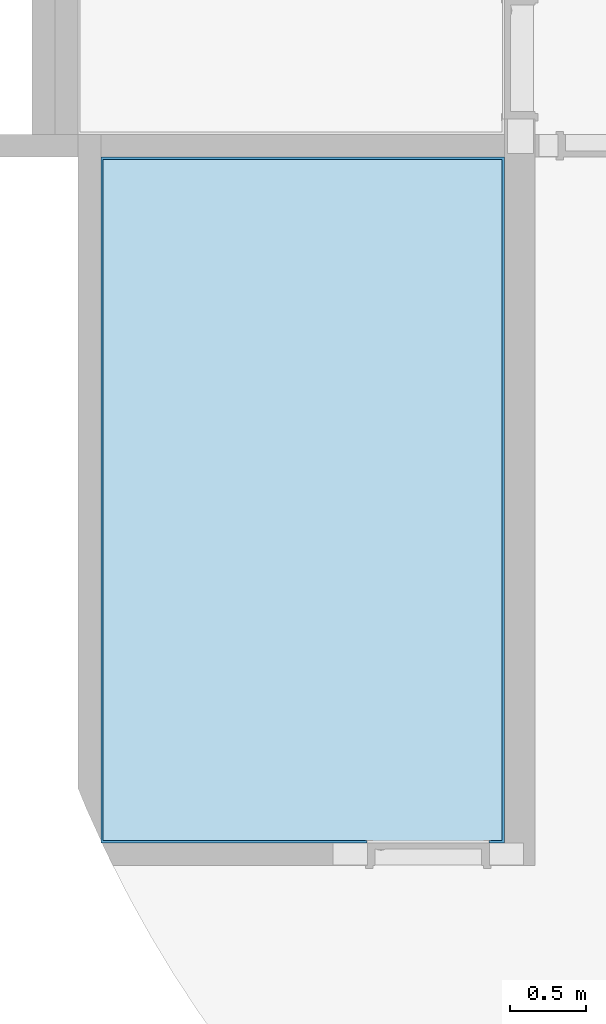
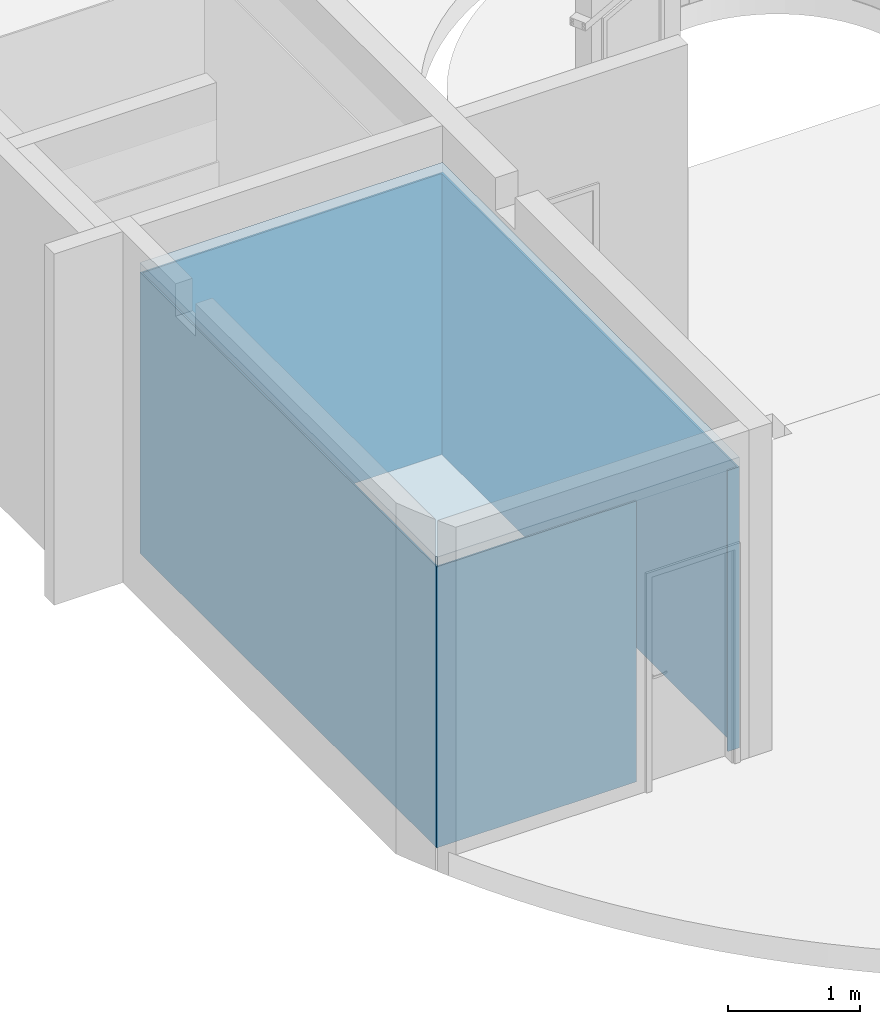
# One storey, part 7 of 21: 2 slabs.
"""IFC4 building model written with IfcOpenShell, lengths in millimetres."""

from ifc_helpers import new_model, entity, si_unit, converted_unit, derived_unit, direction, frame, origin_with_axes, place, context, subcontext, project, spatial, polygons, material, constituent, constituent_set, type_object, element, save


model = new_model("IFC4")

# Units and contexts
model_context = context("Model", 3, precision=0.01, world=origin_with_axes(), true_north=direction((0.0, 1.0)))
body_context = subcontext(model_context, "Body", "Model", "MODEL_VIEW")
ifc_project = project(units=[si_unit("LENGTHUNIT", "METRE", prefix="MILLI"), si_unit("AREAUNIT", "SQUARE_METRE"), si_unit("VOLUMEUNIT", "CUBIC_METRE"), converted_unit("PLANEANGLEUNIT", "DEGREE", entity("IfcPlaneAngleMeasure", 0.0174532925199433), si_unit("PLANEANGLEUNIT", "RADIAN"), dimensions=[0, 0, 0, 0, 0, 0, 0]), converted_unit("TIMEUNIT", "Year", entity("IfcTimeMeasure", 31557600.0), si_unit("TIMEUNIT", "SECOND"), dimensions=[0, 0, 1, 0, 0, 0, 0]), si_unit("MASSUNIT", "GRAM", prefix="KILO"), si_unit("THERMODYNAMICTEMPERATUREUNIT", "DEGREE_CELSIUS"), si_unit("LUMINOUSINTENSITYUNIT", "LUMEN"), si_unit("ENERGYUNIT", "JOULE", prefix="MEGA"), derived_unit("THERMALCONDUCTANCEUNIT", [(si_unit("POWERUNIT", "WATT"), 1), (si_unit("LENGTHUNIT", "METRE"), -1), (si_unit("THERMODYNAMICTEMPERATUREUNIT", "KELVIN"), -1)]), derived_unit("SPECIFICHEATCAPACITYUNIT", [(si_unit("ENERGYUNIT", "JOULE"), 1), (si_unit("MASSUNIT", "GRAM", prefix="KILO"), -1), (si_unit("THERMODYNAMICTEMPERATUREUNIT", "KELVIN"), -1)]), derived_unit("MASSDENSITYUNIT", [(si_unit("MASSUNIT", "GRAM", prefix="KILO"), 1), (si_unit("VOLUMEUNIT", "CUBIC_METRE"), -1)])], contexts=[model_context])

# Site, building, storey
site_placement = place(None, origin_with_axes())
site = spatial("IfcSite", under=ifc_project, at=site_placement, Name="Exteriér", CompositionType="ELEMENT")
building_placement = place(site_placement, origin_with_axes())
building = spatial("IfcBuilding", under=site, at=building_placement, Name="Univerzitní lezecké centrum", CompositionType="ELEMENT")
storey_placement = place(building_placement, frame((0.0, 0.0, -3350.0), z_axis=(0.0, 0.0, 1.0), x_axis=(1.0, 0.0, 0.0)))
storey = spatial("IfcBuildingStorey", under=building, at=storey_placement, Name="1.PP", CompositionType="ELEMENT", Elevation=-3350.0)

# Slabs
ifc_material_1 = material(Name="SDK - UA profil nosný 50")
ifc_constituent_1 = constituent(ifc_material_1, Name="SDK - UA profil nosný 50")
ifc_material_2 = material(Name="SDK - R-CD profil montážní")
ifc_constituent_2 = constituent(ifc_material_2, Name="SDK - R-CD profil montážní")
ifc_material_3 = material(Name="Sádrokarton - voděodolný")
ifc_constituent_3 = constituent(ifc_material_3, Name="Sádrokarton - voděodolný")
ifc_constituent_set = constituent_set(constituents=[ifc_constituent_1, ifc_constituent_2, ifc_constituent_3], Name="!SDK - hygienický")
slab_type_1 = type_object("IfcSlabType", Name="!SDK - hygienický 90", PredefinedType="FLOOR")
slab_1_placement = place(storey_placement, frame((-4800.1483511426, -3699.999999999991, 2690.0), z_axis=(0.0, 0.0, 1.0), x_axis=(1.0, 0.0, 0.0)))
element("IfcSlab", 1, at=slab_1_placement, inside=storey, type_object=slab_type_1, material=ifc_constituent_set, Name="Pdh01", PredefinedType="FLOOR", context=body_context, shape_type="Tessellation", body=[
    polygons([(0.0, 16.99740485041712, 0.0), (7.712790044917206, 0.0, 0.0), (2649.739482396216, 0.0, 0.0), (2649.739482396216, 4500.0, 0.0), (0.0, 4500.0, 0.0), (7.712790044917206, 0.0, -50.00000000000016), (0.0, 16.99740485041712, -50.00000000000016), (2649.739482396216, 0.0, -50.00000000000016), (2649.739482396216, 4500.0, -50.00000000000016), (0.0, 4500.0, -50.00000000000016)], [[[1, 2, 3, 4, 5]], [[6, 2, 1, 7]], [[2, 6, 8, 3]], [[8, 9, 4, 3]], [[9, 10, 5, 4]], [[7, 1, 5, 10]], [[6, 7, 10, 9, 8]]], closed=True),
    polygons([(0.0, 16.99740485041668, -50.00000000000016), (7.712790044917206, 0.0, -50.00000000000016), (2649.739482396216, 0.0, -50.00000000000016), (2649.739482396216, 4500.0, -50.00000000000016), (0.0, 4500.0, -50.00000000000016), (7.712790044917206, 0.0, -77.00000000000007), (0.0, 16.99740485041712, -77.00000000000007), (2649.739482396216, 0.0, -77.00000000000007), (2649.739482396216, 4500.0, -77.00000000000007), (0.0, 4500.0, -77.00000000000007)], [[[1, 2, 3, 4, 5]], [[6, 2, 1, 7]], [[2, 6, 8, 3]], [[8, 9, 4, 3]], [[9, 10, 5, 4]], [[7, 1, 5, 10]], [[6, 7, 10, 9, 8]]], closed=True),
    polygons([(0.0, 16.99740485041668, -77.00000000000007), (7.712790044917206, 0.0, -77.00000000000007), (2649.739482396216, 0.0, -77.00000000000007), (2649.739482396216, 4500.0, -77.00000000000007), (0.0, 4500.0, -77.00000000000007), (7.712790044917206, 0.0, -89.99999999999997), (0.0, 16.99740485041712, -89.99999999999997), (2649.739482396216, 0.0, -89.99999999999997), (2649.739482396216, 4500.0, -89.99999999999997), (0.0, 4500.0, -89.99999999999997)], [[[1, 2, 3, 4, 5]], [[6, 2, 1, 7]], [[2, 6, 8, 3]], [[3, 8, 9, 4]], [[4, 9, 10, 5]], [[7, 1, 5, 10]], [[6, 7, 10, 9, 8]]], closed=True),
])
ifc_material_4 = material(Name="Keramická dlažba 20x40 - obklad")
slab_type_2 = type_object("IfcSlabType", Name="Keramická dlažba 20x40 - obklad 2600", PredefinedType="FLOOR")
slab_2_placement = place(storey_placement, frame((-4800.148351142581, -3699.999999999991, 2600.0), z_axis=(0.0, 0.0, 1.0), x_axis=(1.0, 0.0, 0.0)))
element("IfcSlab", 2, at=slab_2_placement, inside=storey, type_object=slab_type_2, material=ifc_material_4, PredefinedType="FLOOR", context=body_context, shape_type="Tessellation", body=[
    polygons([(0.0, 0.0, 0.0), (0.0, 0.0, -2600.0), (1748.213334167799, 0.0, -2600.0), (1748.213334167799, 0.0, 0.0), (0.0, 4500.0, 0.0), (0.0, 4500.0, -2600.0), (2649.739512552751, 4500.0, -2600.0), (2649.739512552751, 0.0, -2600.0), (2548.213311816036, 0.0, -2600.0), (2548.213311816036, 15.00000000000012, -2600.0), (2634.73951255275, 15.00000000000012, -2600.0), (2634.73951255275, 4485.0, -2600.0), (14.99999999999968, 4485.0, -2600.0), (14.99999999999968, 15.00000000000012, -2600.0), (1748.213334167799, 15.00000000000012, -2600.0), (1748.213334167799, 15.00000000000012, 0.0), (14.99999999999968, 15.00000000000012, 0.0), (14.99999999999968, 4485.0, 0.0), (2634.73951255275, 4485.0, 0.0), (2634.73951255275, 15.00000000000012, 0.0), (2548.213311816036, 15.00000000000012, 0.0), (2548.213311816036, 0.0, 0.0), (2649.739512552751, 0.0, 0.0), (2649.739512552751, 4500.0, 0.0)], [[[1, 2, 3, 4]], [[5, 6, 2, 1]], [[3, 2, 6, 7, 8, 9, 10, 11, 12, 13, 14, 15]], [[4, 3, 15, 16]], [[5, 1, 4, 16, 17, 18, 19, 20, 21, 22, 23, 24]], [[24, 7, 6, 5]], [[23, 8, 7, 24]], [[22, 9, 8, 23]], [[21, 10, 9, 22]], [[20, 11, 10, 21]], [[19, 12, 11, 20]], [[18, 13, 12, 19]], [[17, 14, 13, 18]], [[16, 15, 14, 17]]], closed=True),
])

save(model, "model.ifc")
